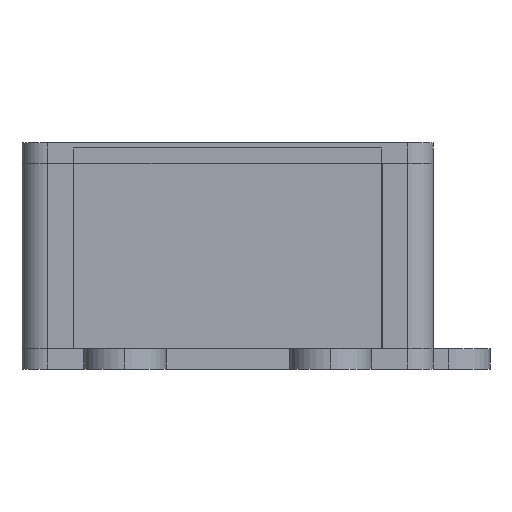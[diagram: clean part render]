
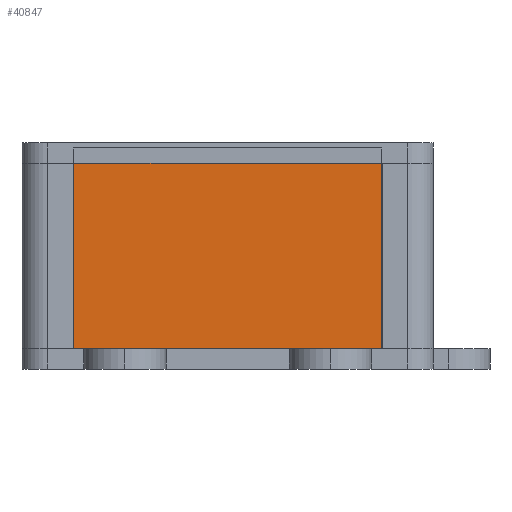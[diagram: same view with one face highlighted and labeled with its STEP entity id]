
A CAD part, left-side view. The second image highlights one B-rep face of the part: STEP entity #40847.
In plain terms, the highlighted planar face has unit normal (-1, 0, 0) as drawn and (0, 1, 0) by its records, which use the part's own axes.
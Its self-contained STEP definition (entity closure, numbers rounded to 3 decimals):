
#1255 = CARTESIAN_POINT ( 'NONE',  ( 60., 2., 0. ) ) ;
#7155 = CARTESIAN_POINT ( 'NONE',  ( 60., 2., 39. ) ) ;
#8084 = VERTEX_POINT ( 'NONE', #31161 ) ;
#15319 = VECTOR ( 'NONE', #30044, 1000. ) ;
#16760 = VERTEX_POINT ( 'NONE', #24969 ) ;
#17085 = DIRECTION ( 'NONE',  ( 0., 0., -1. ) ) ;
#17323 = PLANE ( 'NONE',  #55341 ) ;
#17399 = FACE_OUTER_BOUND ( 'NONE', #43777, .T. ) ;
#19114 = VERTEX_POINT ( 'NONE', #22707 ) ;
#19906 = CARTESIAN_POINT ( 'NONE',  ( 0., 2., 39. ) ) ;
#20060 = EDGE_CURVE ( 'NONE', #19114, #36776, #36082, .T. ) ;
#20689 = CARTESIAN_POINT ( 'NONE',  ( 0., 2., 0. ) ) ;
#22707 = CARTESIAN_POINT ( 'NONE',  ( 60., 2., 39. ) ) ;
#24969 = CARTESIAN_POINT ( 'NONE',  ( 0., 2., 0. ) ) ;
#30044 = DIRECTION ( 'NONE',  ( 0., 0., -1. ) ) ;
#30094 = EDGE_CURVE ( 'NONE', #36776, #16760, #42807, .T. ) ;
#31161 = CARTESIAN_POINT ( 'NONE',  ( 0., 2., 39. ) ) ;
#33220 = CARTESIAN_POINT ( 'NONE',  ( 0., 2., 39. ) ) ;
#33640 = DIRECTION ( 'NONE',  ( -1., 0., 0. ) ) ;
#35048 = ORIENTED_EDGE ( 'NONE', *, *, #44987, .F. ) ;
#36082 = LINE ( 'NONE', #7155, #15319 ) ;
#36126 = VECTOR ( 'NONE', #33640, 1000. ) ;
#36776 = VERTEX_POINT ( 'NONE', #1255 ) ;
#38486 = CARTESIAN_POINT ( 'NONE',  ( 0., 2., 39. ) ) ;
#38525 = VECTOR ( 'NONE', #69344, 1000. ) ;
#39035 = DIRECTION ( 'NONE',  ( 0., -1., 0. ) ) ;
#40847 = ADVANCED_FACE ( 'NONE', ( #17399 ), #17323, .F. ) ;
#41086 = ORIENTED_EDGE ( 'NONE', *, *, #20060, .T. ) ;
#42142 = EDGE_CURVE ( 'NONE', #19114, #8084, #70581, .T. ) ;
#42807 = LINE ( 'NONE', #20689, #38525 ) ;
#43510 = DIRECTION ( 'NONE',  ( 0., 0., -1. ) ) ;
#43777 = EDGE_LOOP ( 'NONE', ( #49521, #35048, #51609, #41086 ) ) ;
#44987 = EDGE_CURVE ( 'NONE', #8084, #16760, #64029, .T. ) ;
#47642 = VECTOR ( 'NONE', #43510, 1000. ) ;
#49521 = ORIENTED_EDGE ( 'NONE', *, *, #30094, .T. ) ;
#51609 = ORIENTED_EDGE ( 'NONE', *, *, #42142, .F. ) ;
#55341 = AXIS2_PLACEMENT_3D ( 'NONE', #33220, #39035, #17085 ) ;
#64029 = LINE ( 'NONE', #19906, #47642 ) ;
#69344 = DIRECTION ( 'NONE',  ( -1., 0., 0. ) ) ;
#70581 = LINE ( 'NONE', #38486, #36126 ) ;
